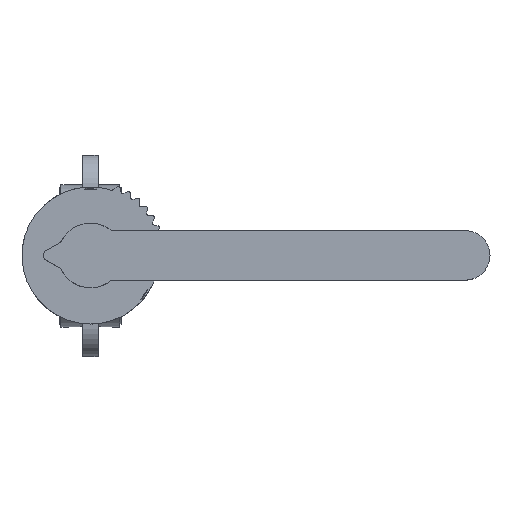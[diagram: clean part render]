
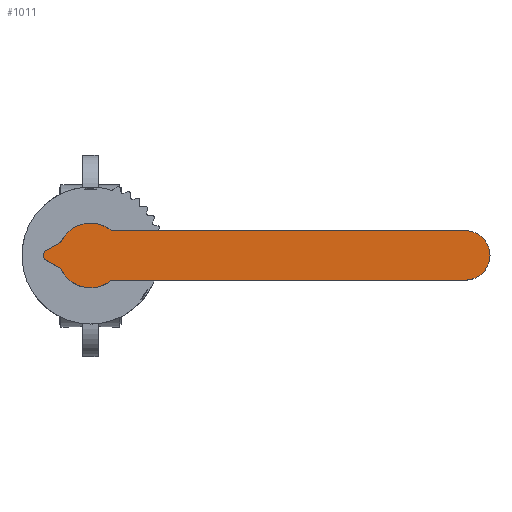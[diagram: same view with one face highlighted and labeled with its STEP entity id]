
A CAD part, top view. The second image highlights one B-rep face of the part: STEP entity #1011.
In plain terms, the highlighted planar face has unit normal (0, 0, 1).
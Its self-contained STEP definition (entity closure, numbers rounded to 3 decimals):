
#1011=ADVANCED_FACE('',(#7112),#7114,.T.);
#7112=FACE_BOUND('',#7113,.T.);
#7113=EDGE_LOOP('',(#12253,#12254,#12255,#12256,#12257,#12258,#12259,#12260,#12261,
#12262,#12263));
#7114=PLANE('',#7115);
#7115=AXIS2_PLACEMENT_3D('',#7116,#7117,#7118);
#7116=CARTESIAN_POINT('',(-1.545,-4.755,175.));
#7117=DIRECTION('',(0.,0.,1.));
#7118=DIRECTION('',(0.951,-0.309,0.));
#12253=ORIENTED_EDGE('',*,*,#15928,.T.);
#12254=ORIENTED_EDGE('',*,*,#15929,.T.);
#12255=ORIENTED_EDGE('',*,*,#15930,.T.);
#12256=ORIENTED_EDGE('',*,*,#15442,.T.);
#12257=ORIENTED_EDGE('',*,*,#15441,.T.);
#12258=ORIENTED_EDGE('',*,*,#15931,.T.);
#12259=ORIENTED_EDGE('',*,*,#15932,.T.);
#12260=ORIENTED_EDGE('',*,*,#15933,.T.);
#12261=ORIENTED_EDGE('',*,*,#15934,.T.);
#12262=ORIENTED_EDGE('',*,*,#15935,.T.);
#12263=ORIENTED_EDGE('',*,*,#15437,.T.);
#15437=EDGE_CURVE('',#17595,#17593,#17596,.T.);
#15441=EDGE_CURVE('',#17603,#17601,#17604,.T.);
#15442=EDGE_CURVE('',#17605,#17603,#17606,.T.);
#15928=EDGE_CURVE('',#17593,#18553,#18555,.T.);
#15929=EDGE_CURVE('',#18553,#18556,#18557,.T.);
#15930=EDGE_CURVE('',#18556,#17605,#18558,.T.);
#15931=EDGE_CURVE('',#17601,#18559,#18560,.T.);
#15932=EDGE_CURVE('',#18559,#18561,#18562,.T.);
#15933=EDGE_CURVE('',#18561,#18563,#18564,.T.);
#15934=EDGE_CURVE('',#18563,#18565,#18566,.T.);
#15935=EDGE_CURVE('',#18565,#17595,#18567,.T.);
#17593=VERTEX_POINT('',#22018);
#17595=VERTEX_POINT('',#22022);
#17596=CIRCLE('',#22023,17.);
#17601=VERTEX_POINT('',#22036);
#17603=VERTEX_POINT('',#22040);
#17604=CIRCLE('',#22041,17.);
#17605=VERTEX_POINT('',#22045);
#17606=CIRCLE('',#22046,17.);
#18553=VERTEX_POINT('',#24270);
#18555=LINE('',#24274,#24275);
#18556=VERTEX_POINT('',#24277);
#18557=CIRCLE('',#24278,13.);
#18558=LINE('',#24282,#24283);
#18559=VERTEX_POINT('',#24285);
#18560=CIRCLE('',#24286,3.);
#18561=VERTEX_POINT('',#24290);
#18562=LINE('',#24291,#24292);
#18563=VERTEX_POINT('',#24294);
#18564=CIRCLE('',#24295,3.);
#18565=VERTEX_POINT('',#24299);
#18566=LINE('',#24300,#24301);
#18567=CIRCLE('',#24303,3.);
#22018=CARTESIAN_POINT('',(10.954,-13.,175.));
#22022=CARTESIAN_POINT('',(-15.113,-7.785,175.));
#22023=AXIS2_PLACEMENT_3D('',#22024,#22025,#22026);
#22024=CARTESIAN_POINT('',(0.,0.,175.));
#22025=DIRECTION('',(0.,0.,1.));
#22026=DIRECTION('',(-0.889,-0.458,0.));
#22036=CARTESIAN_POINT('',(-15.113,7.785,175.));
#22040=CARTESIAN_POINT('',(2.659,16.791,175.));
#22041=AXIS2_PLACEMENT_3D('',#22042,#22043,#22044);
#22042=CARTESIAN_POINT('',(0.,0.,175.));
#22043=DIRECTION('',(0.,0.,1.));
#22044=DIRECTION('',(0.156,0.988,0.));
#22045=CARTESIAN_POINT('',(10.954,13.,175.));
#22046=AXIS2_PLACEMENT_3D('',#22047,#22048,#22049);
#22047=CARTESIAN_POINT('',(0.,0.,175.));
#22048=DIRECTION('',(0.,0.,1.));
#22049=DIRECTION('',(0.644,0.765,0.));
#24270=CARTESIAN_POINT('',(197.,-13.,175.));
#24274=CARTESIAN_POINT('',(10.954,-13.,175.));
#24275=VECTOR('',#24276,1.);
#24276=DIRECTION('',(1.,0.,0.));
#24277=CARTESIAN_POINT('',(197.,13.,175.));
#24278=AXIS2_PLACEMENT_3D('',#24279,#24280,#24281);
#24279=CARTESIAN_POINT('',(197.,0.,175.));
#24280=DIRECTION('',(0.,0.,1.));
#24281=DIRECTION('',(0.,-1.,0.));
#24282=CARTESIAN_POINT('',(197.,13.,175.));
#24283=VECTOR('',#24284,1.);
#24284=DIRECTION('',(-1.,0.,0.));
#24285=CARTESIAN_POINT('',(-16.317,6.539,175.));
#24286=AXIS2_PLACEMENT_3D('',#24287,#24288,#24289);
#24287=CARTESIAN_POINT('',(-17.78,9.159,175.));
#24288=DIRECTION('',(0.,0.,-1.));
#24289=DIRECTION('',(0.889,-0.458,0.));
#24290=CARTESIAN_POINT('',(-23.338,2.619,175.));
#24291=CARTESIAN_POINT('',(-16.317,6.539,175.));
#24292=VECTOR('',#24293,1.);
#24293=DIRECTION('',(-0.873,-0.487,0.));
#24294=CARTESIAN_POINT('',(-23.338,-2.619,175.));
#24295=AXIS2_PLACEMENT_3D('',#24296,#24297,#24298);
#24296=CARTESIAN_POINT('',(-21.876,0.,175.));
#24297=DIRECTION('',(0.,0.,1.));
#24298=DIRECTION('',(-0.487,0.873,0.));
#24299=CARTESIAN_POINT('',(-16.317,-6.539,175.));
#24300=CARTESIAN_POINT('',(-23.338,-2.619,175.));
#24301=VECTOR('',#24302,1.);
#24302=DIRECTION('',(0.873,-0.487,0.));
#24303=AXIS2_PLACEMENT_3D('',#24304,#24305,#24306);
#24304=CARTESIAN_POINT('',(-17.78,-9.159,175.));
#24305=DIRECTION('',(0.,0.,-1.));
#24306=DIRECTION('',(0.487,0.873,0.));
